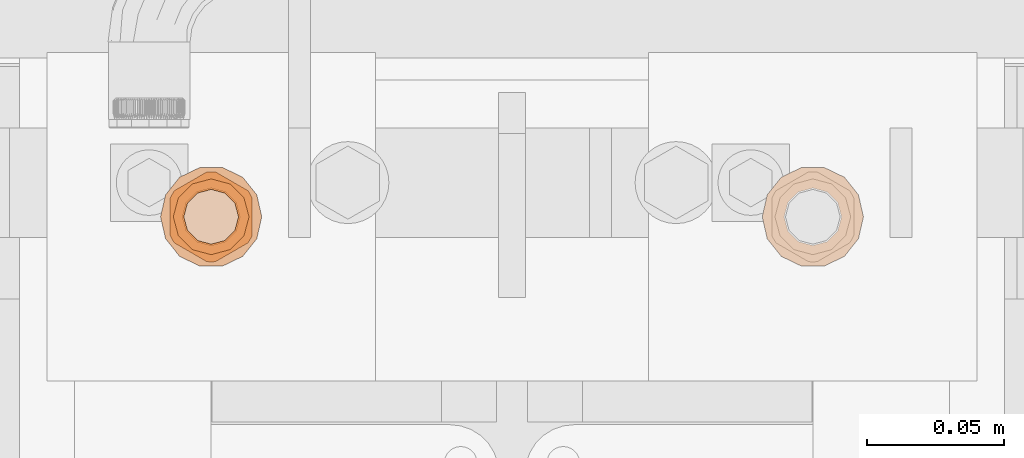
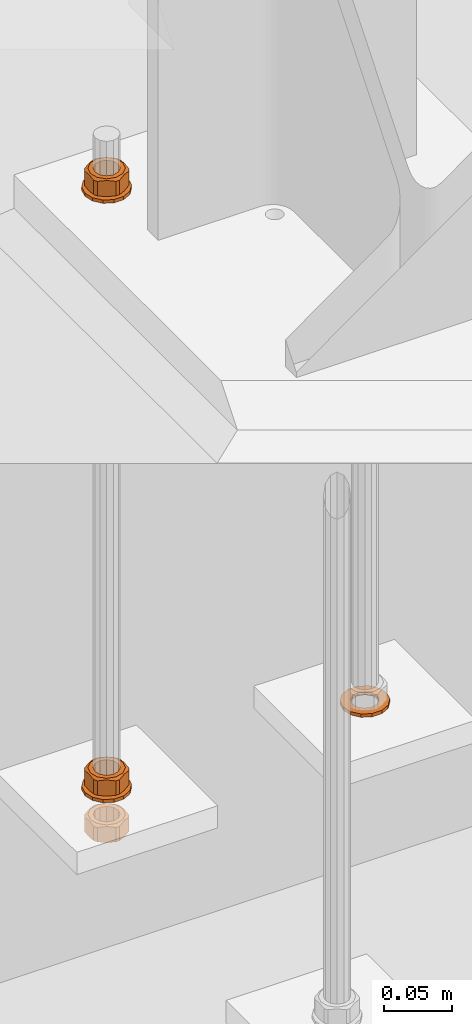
# One storey, part 135 of 145: 6 proxies.
"""IFC2X3 building model written with IfcOpenShell, lengths in millimetres."""

from ifc_helpers import new_model, entity, si_unit, converted_unit, origin_with_axes, place, context, project, spatial, faceted_brep, material, element, save


model = new_model("IFC2X3")

# Units and contexts
model_context = context("Model", 3, precision=1e-09, world=origin_with_axes())
ifc_project = project(units=[si_unit("LENGTHUNIT", "METRE", prefix="MILLI"), si_unit("AREAUNIT", "SQUARE_METRE"), si_unit("VOLUMEUNIT", "CUBIC_METRE"), converted_unit("PLANEANGLEUNIT", "DEGREE", entity("IfcPlaneAngleMeasure", 0.01745329), si_unit("PLANEANGLEUNIT", "RADIAN"), dimensions=[0, 0, 0, 0, 0, 0, 0])], contexts=[model_context])

# Site, building, storey
site_placement = place(None, origin_with_axes())
site = spatial("IfcSite", under=ifc_project, at=site_placement, Name="BZ1 Grund- und Mittelschule 85716 Unterschlei?heim", CompositionType="ELEMENT")
building_placement = place(site_placement, origin_with_axes())
building = spatial("IfcBuilding", under=site, at=building_placement, Name="Struktur 1", CompositionType="ELEMENT")
storey_placement = place(building_placement, origin_with_axes())
storey = spatial("IfcBuildingStorey", under=building, at=storey_placement, Name="Default Storey", CompositionType="ELEMENT", Elevation=0.0)

# Proxies
ifc_material = material(Name="A2")
proxy_1_placement = place(None, origin_with_axes())
element("IfcBuildingElementProxy", 1, at=proxy_1_placement, inside=storey, material=ifc_material, ObjectType="-", context=model_context, shape_type="Brep", body=[
    faceted_brep([(16972.379288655, -1510.538117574, -1247.0), (16964.961364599, -1506.965833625, -1247.0), (16956.728090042, -1506.965833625, -1247.0), (16949.310165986, -1510.538117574, -1247.0), (16944.176803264, -1516.975150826, -1247.0), (16942.344727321, -1525.002, -1247.0), (16944.176803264, -1533.028849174, -1247.0), (16949.310165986, -1539.465882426, -1247.0), (16956.728090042, -1543.038166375, -1247.0), (16964.961364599, -1543.038166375, -1247.0), (16972.379288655, -1539.465882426, -1247.0), (16977.512651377, -1533.028849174, -1247.0), (16979.344727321, -1525.002, -1247.0), (16977.512651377, -1516.975150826, -1247.0), (16960.844727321, -1514.502, -1247.0), (16966.094727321, -1515.90873326, -1247.0), (16969.93799406, -1519.752, -1247.0), (16971.344727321, -1525.002, -1247.0), (16969.93799406, -1530.252, -1247.0), (16966.094727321, -1534.09526674, -1247.0), (16960.844727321, -1535.502, -1247.0), (16955.594727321, -1534.09526674, -1247.0), (16951.751460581, -1530.252, -1247.0), (16950.344727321, -1525.002, -1247.0), (16951.751460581, -1519.752, -1247.0), (16955.594727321, -1515.90873326, -1247.0), (16949.310165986, -1510.538117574, -1250.0), (16956.728090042, -1506.965833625, -1250.0), (16964.961364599, -1506.965833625, -1250.0), (16972.379288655, -1510.538117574, -1250.0), (16977.512651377, -1516.975150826, -1250.0), (16979.344727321, -1525.002, -1250.0), (16977.512651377, -1533.028849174, -1250.0), (16972.379288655, -1539.465882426, -1250.0), (16964.961364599, -1543.038166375, -1250.0), (16956.728090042, -1543.038166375, -1250.0), (16949.310165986, -1539.465882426, -1250.0), (16944.176803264, -1533.028849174, -1250.0), (16942.344727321, -1525.002, -1250.0), (16944.176803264, -1516.975150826, -1250.0), (16960.844727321, -1514.502, -1250.0), (16955.594727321, -1515.90873326, -1250.0), (16951.751460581, -1519.752, -1250.0), (16950.344727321, -1525.002, -1250.0), (16951.751460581, -1530.252, -1250.0), (16955.594727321, -1534.09526674, -1250.0), (16960.844727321, -1535.502, -1250.0), (16966.094727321, -1534.09526674, -1250.0), (16969.93799406, -1530.252, -1250.0), (16971.344727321, -1525.002, -1250.0), (16969.93799406, -1519.752, -1250.0), (16966.094727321, -1515.90873326, -1250.0)], [[[0, 1, 2, 3, 4, 5, 6, 7, 8, 9, 10, 11, 12, 13], [14, 15, 16, 17, 18, 19, 20, 21, 22, 23, 24, 25]], [[26, 3, 2, 27]], [[26, 27, 28, 29, 30, 31, 32, 33, 34, 35, 36, 37, 38, 39], [40, 41, 42, 43, 44, 45, 46, 47, 48, 49, 50, 51]], [[3, 26, 39, 4]], [[41, 25, 24, 42]], [[4, 39, 38, 5]], [[25, 41, 40, 14]], [[27, 2, 1, 28]], [[42, 24, 23, 43]], [[5, 38, 37, 6]], [[14, 40, 51, 15]], [[28, 1, 0, 29]], [[43, 23, 22, 44]], [[6, 37, 36, 7]], [[15, 51, 50, 16]], [[29, 0, 13, 30]], [[44, 22, 21, 45]], [[7, 36, 35, 8]], [[16, 50, 49, 17]], [[12, 31, 30, 13]], [[45, 21, 20, 46]], [[8, 35, 34, 9]], [[31, 12, 11, 32]], [[17, 49, 48, 18]], [[10, 33, 32, 11]], [[9, 34, 33, 10]], [[46, 20, 19, 47]], [[18, 48, 47, 19]]]),
])
proxy_2_placement = place(None, origin_with_axes())
element("IfcBuildingElementProxy", 2, at=proxy_2_placement, inside=storey, material=ifc_material, ObjectType="-", context=model_context, shape_type="Brep", body=[
    faceted_brep([(16972.379288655, -1510.538117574, -707.0), (16964.961364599, -1506.965833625, -707.0), (16956.728090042, -1506.965833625, -707.0), (16949.310165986, -1510.538117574, -707.0), (16944.176803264, -1516.975150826, -707.0), (16942.344727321, -1525.002, -707.0), (16944.176803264, -1533.028849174, -707.0), (16949.310165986, -1539.465882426, -707.0), (16956.728090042, -1543.038166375, -707.0), (16964.961364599, -1543.038166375, -707.0), (16972.379288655, -1539.465882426, -707.0), (16977.512651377, -1533.028849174, -707.0), (16979.344727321, -1525.002, -707.0), (16977.512651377, -1516.975150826, -707.0), (16960.844727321, -1514.502, -707.0), (16966.094727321, -1515.90873326, -707.0), (16969.93799406, -1519.752, -707.0), (16971.344727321, -1525.002, -707.0), (16969.93799406, -1530.252, -707.0), (16966.094727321, -1534.09526674, -707.0), (16960.844727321, -1535.502, -707.0), (16955.594727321, -1534.09526674, -707.0), (16951.751460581, -1530.252, -707.0), (16950.344727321, -1525.002, -707.0), (16951.751460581, -1519.752, -707.0), (16955.594727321, -1515.90873326, -707.0), (16949.310165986, -1510.538117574, -710.0), (16956.728090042, -1506.965833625, -710.0), (16964.961364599, -1506.965833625, -710.0), (16972.379288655, -1510.538117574, -710.0), (16977.512651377, -1516.975150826, -710.0), (16979.344727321, -1525.002, -710.0), (16977.512651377, -1533.028849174, -710.0), (16972.379288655, -1539.465882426, -710.0), (16964.961364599, -1543.038166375, -710.0), (16956.728090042, -1543.038166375, -710.0), (16949.310165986, -1539.465882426, -710.0), (16944.176803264, -1533.028849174, -710.0), (16942.344727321, -1525.002, -710.0), (16944.176803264, -1516.975150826, -710.0), (16960.844727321, -1514.502, -710.0), (16955.594727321, -1515.90873326, -710.0), (16951.751460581, -1519.752, -710.0), (16950.344727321, -1525.002, -710.0), (16951.751460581, -1530.252, -710.0), (16955.594727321, -1534.09526674, -710.0), (16960.844727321, -1535.502, -710.0), (16966.094727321, -1534.09526674, -710.0), (16969.93799406, -1530.252, -710.0), (16971.344727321, -1525.002, -710.0), (16969.93799406, -1519.752, -710.0), (16966.094727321, -1515.90873326, -710.0)], [[[0, 1, 2, 3, 4, 5, 6, 7, 8, 9, 10, 11, 12, 13], [14, 15, 16, 17, 18, 19, 20, 21, 22, 23, 24, 25]], [[26, 3, 2, 27]], [[26, 27, 28, 29, 30, 31, 32, 33, 34, 35, 36, 37, 38, 39], [40, 41, 42, 43, 44, 45, 46, 47, 48, 49, 50, 51]], [[3, 26, 39, 4]], [[41, 25, 24, 42]], [[4, 39, 38, 5]], [[25, 41, 40, 14]], [[27, 2, 1, 28]], [[42, 24, 23, 43]], [[5, 38, 37, 6]], [[14, 40, 51, 15]], [[28, 1, 0, 29]], [[43, 23, 22, 44]], [[6, 37, 36, 7]], [[15, 51, 50, 16]], [[29, 0, 13, 30]], [[44, 22, 21, 45]], [[7, 36, 35, 8]], [[16, 50, 49, 17]], [[12, 31, 30, 13]], [[45, 21, 20, 46]], [[8, 35, 34, 9]], [[31, 12, 11, 32]], [[17, 49, 48, 18]], [[10, 33, 32, 11]], [[9, 34, 33, 10]], [[46, 20, 19, 47]], [[18, 48, 47, 19]]]),
])
proxy_3_placement = place(None, origin_with_axes())
element("IfcBuildingElementProxy", 3, at=proxy_3_placement, inside=storey, material=ifc_material, ObjectType="-", context=model_context, shape_type="Brep", body=[
    faceted_brep([(16975.371914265, -1532.772872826, -705.484455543), (16974.838094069, -1533.697476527, -705.484455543), (16972.839179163, -1531.927, -707.0), (16975.371914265, -1532.772872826, -692.515544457), (16974.838094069, -1533.697476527, -692.515544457), (16974.245508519, -1534.585563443, -705.484455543), (16974.245508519, -1534.585563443, -692.515544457), (16975.844727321, -1531.815635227, -705.484455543), (16975.844727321, -1531.815635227, -692.515544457), (16972.839179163, -1531.927, -691.0), (16975.844727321, -1525.002, -706.33604719), (16974.694727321, -1525.002, -707.0), (16968.344727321, -1537.992381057, -706.33604719), (16968.344727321, -1537.992381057, -691.66395281), (16962.443946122, -1541.39919867, -692.515544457), (16962.443946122, -1541.39919867, -705.484455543), (16961.378547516, -1541.468349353, -705.484455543), (16961.378547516, -1541.468349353, -692.515544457), (16960.310907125, -1541.468349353, -692.515544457), (16960.310907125, -1541.468349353, -705.484455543), (16975.844727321, -1518.188364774, -705.484455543), (16975.844727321, -1518.188364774, -692.515544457), (16975.844727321, -1525.002, -691.66395281), (16967.769727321, -1513.007548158, -707.0), (16972.839179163, -1518.077, -707.0), (16967.769727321, -1536.996451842, -707.0), (16960.844727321, -1538.852, -707.0), (16953.919727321, -1536.996451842, -707.0), (16948.850275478, -1531.927, -707.0), (16946.994727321, -1525.002, -707.0), (16948.850275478, -1518.077, -707.0), (16953.919727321, -1513.007548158, -707.0), (16960.844727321, -1511.152, -707.0), (16970.844727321, -1525.002, -707.0), (16969.504981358, -1520.002, -707.0), (16965.844727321, -1516.341745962, -707.0), (16960.844727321, -1515.002, -707.0), (16955.844727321, -1516.341745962, -707.0), (16952.184473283, -1520.002, -707.0), (16950.844727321, -1525.002, -707.0), (16952.184473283, -1530.002, -707.0), (16955.844727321, -1533.662254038, -707.0), (16960.844727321, -1535.002, -707.0), (16965.844727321, -1533.662254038, -707.0), (16969.504981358, -1530.002, -707.0), (16969.504981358, -1530.002, -691.0), (16965.844727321, -1533.662254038, -691.0), (16967.769727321, -1536.996451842, -691.0), (16960.844727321, -1538.852, -691.0), (16975.371914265, -1517.231127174, -705.484455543), (16975.371914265, -1517.231127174, -692.515544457), (16974.694727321, -1525.002, -691.0), (16972.839179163, -1518.077, -691.0), (16967.769727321, -1513.007548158, -691.0), (16960.844727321, -1511.152, -691.0), (16953.919727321, -1513.007548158, -691.0), (16948.850275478, -1518.077, -691.0), (16946.994727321, -1525.002, -691.0), (16948.850275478, -1531.927, -691.0), (16953.919727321, -1536.996451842, -691.0), (16970.844727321, -1525.002, -691.0), (16960.844727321, -1535.002, -691.0), (16955.844727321, -1533.662254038, -691.0), (16952.184473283, -1530.002, -691.0), (16950.844727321, -1525.002, -691.0), (16952.184473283, -1520.002, -691.0), (16955.844727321, -1516.341745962, -691.0), (16960.844727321, -1515.002, -691.0), (16965.844727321, -1516.341745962, -691.0), (16969.504981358, -1520.002, -691.0), (16959.245508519, -1541.39919867, -705.484455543), (16959.245508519, -1541.39919867, -692.515544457), (16974.838094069, -1516.306523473, -705.484455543), (16974.838094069, -1516.306523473, -692.515544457), (16953.344727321, -1537.992381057, -706.33604719), (16953.344727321, -1537.992381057, -691.66395281), (16947.443946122, -1534.585563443, -692.515544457), (16947.443946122, -1534.585563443, -705.484455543), (16974.245508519, -1515.418436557, -705.484455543), (16974.245508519, -1515.418436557, -692.515544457), (16968.344727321, -1512.011618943, -706.33604719), (16962.443946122, -1508.60480133, -705.484455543), (16962.443946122, -1508.60480133, -692.515544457), (16968.344727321, -1512.011618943, -691.66395281), (16946.851360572, -1533.697476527, -692.515544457), (16946.851360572, -1533.697476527, -705.484455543), (16946.317540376, -1532.772872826, -692.515544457), (16946.317540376, -1532.772872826, -705.484455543), (16961.378547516, -1508.535650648, -705.484455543), (16961.378547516, -1508.535650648, -692.515544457), (16960.310907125, -1508.535650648, -705.484455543), (16960.310907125, -1508.535650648, -692.515544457), (16945.844727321, -1531.815635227, -692.515544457), (16945.844727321, -1531.815635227, -705.484455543), (16959.245508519, -1508.60480133, -705.484455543), (16959.245508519, -1508.60480133, -692.515544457), (16945.844727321, -1525.002, -706.33604719), (16953.344727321, -1512.011618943, -706.33604719), (16947.443946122, -1515.418436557, -705.484455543), (16947.443946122, -1515.418436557, -692.515544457), (16953.344727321, -1512.011618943, -691.66395281), (16945.844727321, -1525.002, -691.66395281), (16945.844727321, -1518.188364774, -692.515544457), (16945.844727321, -1518.188364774, -705.484455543), (16946.317540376, -1517.231127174, -705.484455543), (16946.317540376, -1517.231127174, -692.515544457), (16946.851360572, -1516.306523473, -705.484455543), (16946.851360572, -1516.306523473, -692.515544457)], [[[0, 1, 2]], [[0, 3, 4, 1]], [[5, 2, 1]], [[1, 4, 6, 5]], [[7, 0, 2]], [[3, 0, 7, 8]], [[9, 4, 3]], [[10, 7, 11]], [[7, 2, 11]], [[5, 12, 2]], [[6, 13, 14, 15, 12, 5]], [[9, 6, 4]], [[16, 17, 18, 19]], [[17, 16, 15, 14]], [[10, 20, 21, 22, 8, 7]], [[9, 3, 8]], [[20, 10, 11]], [[23, 24, 11, 2, 25, 26, 27, 28, 29, 30, 31, 32], [33, 34, 35, 36, 37, 38, 39, 40, 41, 42, 43, 44]], [[16, 19, 26]], [[12, 25, 2]], [[45, 44, 43, 46]], [[9, 47, 6]], [[48, 17, 14]], [[49, 50, 21, 20]], [[51, 9, 8]], [[9, 51, 52, 53, 54, 55, 56, 57, 58, 59, 48, 47], [60, 45, 46, 61, 62, 63, 64, 65, 66, 67, 68, 69]], [[44, 45, 60, 33]], [[20, 24, 49]], [[20, 11, 24]], [[70, 26, 19]], [[12, 15, 25]], [[15, 16, 26]], [[48, 14, 13]], [[47, 13, 6]], [[19, 18, 71, 70]], [[48, 18, 17]], [[72, 73, 50, 49]], [[51, 8, 22]], [[72, 49, 24]], [[70, 74, 26]], [[15, 26, 25]], [[46, 43, 42, 61]], [[47, 48, 13]], [[48, 71, 18]], [[71, 75, 76, 77, 74, 70]], [[33, 60, 69, 34]], [[78, 79, 73, 72]], [[52, 50, 73]], [[51, 22, 21]], [[52, 21, 50]], [[78, 72, 24]], [[74, 27, 26]], [[48, 59, 71]], [[80, 81, 82, 83, 79, 78]], [[52, 73, 79]], [[52, 51, 21]], [[78, 24, 23]], [[74, 77, 27]], [[61, 42, 41, 62]], [[59, 75, 71]], [[77, 76, 84, 85]], [[34, 69, 68, 35]], [[52, 79, 83]], [[80, 78, 23]], [[81, 80, 32]], [[77, 28, 27]], [[59, 58, 75]], [[58, 76, 75]], [[77, 85, 28]], [[85, 84, 86, 87]], [[88, 89, 82, 81]], [[53, 52, 83]], [[80, 23, 32]], [[81, 32, 88]], [[62, 41, 40, 63]], [[58, 84, 76]], [[85, 87, 28]], [[35, 68, 67, 36]], [[90, 91, 89, 88]], [[53, 83, 82]], [[54, 82, 89]], [[90, 88, 32]], [[86, 84, 58]], [[87, 86, 92, 93]], [[93, 28, 87]], [[39, 64, 63, 40]], [[91, 90, 94, 95]], [[54, 89, 91]], [[54, 53, 82]], [[94, 90, 32]], [[92, 86, 58]], [[93, 96, 28]], [[64, 39, 38, 65]], [[37, 66, 65, 38]], [[36, 67, 66, 37]], [[54, 91, 95]], [[94, 32, 31]], [[97, 98, 99, 100, 95, 94]], [[96, 29, 28]], [[92, 58, 57]], [[92, 101, 102, 103, 96, 93]], [[54, 95, 100]], [[97, 94, 31]], [[96, 103, 29]], [[101, 92, 57]], [[55, 54, 100]], [[97, 31, 30]], [[103, 30, 29]], [[101, 57, 56]], [[55, 100, 99]], [[98, 97, 30]], [[103, 104, 30]], [[103, 102, 105, 104]], [[102, 101, 56]], [[99, 56, 55]], [[98, 30, 106]], [[99, 98, 106, 107]], [[104, 106, 30]], [[102, 56, 105]], [[99, 107, 56]], [[104, 105, 107, 106]], [[107, 105, 56]]]),
])
proxy_4_placement = place(None, origin_with_axes())
element("IfcBuildingElementProxy", 4, at=proxy_4_placement, inside=storey, material=ifc_material, ObjectType="-", context=model_context, shape_type="Brep", body=[
    faceted_brep([(17192.379288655, -1510.538117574, -1247.0), (17184.961364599, -1506.965833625, -1247.0), (17176.728090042, -1506.965833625, -1247.0), (17169.310165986, -1510.538117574, -1247.0), (17164.176803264, -1516.975150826, -1247.0), (17162.344727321, -1525.002, -1247.0), (17164.176803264, -1533.028849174, -1247.0), (17169.310165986, -1539.465882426, -1247.0), (17176.728090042, -1543.038166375, -1247.0), (17184.961364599, -1543.038166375, -1247.0), (17192.379288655, -1539.465882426, -1247.0), (17197.512651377, -1533.028849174, -1247.0), (17199.344727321, -1525.002, -1247.0), (17197.512651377, -1516.975150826, -1247.0), (17180.844727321, -1514.502, -1247.0), (17186.094727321, -1515.90873326, -1247.0), (17189.93799406, -1519.752, -1247.0), (17191.344727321, -1525.002, -1247.0), (17189.93799406, -1530.252, -1247.0), (17186.094727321, -1534.09526674, -1247.0), (17180.844727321, -1535.502, -1247.0), (17175.594727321, -1534.09526674, -1247.0), (17171.751460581, -1530.252, -1247.0), (17170.344727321, -1525.002, -1247.0), (17171.751460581, -1519.752, -1247.0), (17175.594727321, -1515.90873326, -1247.0), (17169.310165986, -1510.538117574, -1250.0), (17176.728090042, -1506.965833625, -1250.0), (17184.961364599, -1506.965833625, -1250.0), (17192.379288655, -1510.538117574, -1250.0), (17197.512651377, -1516.975150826, -1250.0), (17199.344727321, -1525.002, -1250.0), (17197.512651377, -1533.028849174, -1250.0), (17192.379288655, -1539.465882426, -1250.0), (17184.961364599, -1543.038166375, -1250.0), (17176.728090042, -1543.038166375, -1250.0), (17169.310165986, -1539.465882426, -1250.0), (17164.176803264, -1533.028849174, -1250.0), (17162.344727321, -1525.002, -1250.0), (17164.176803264, -1516.975150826, -1250.0), (17180.844727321, -1514.502, -1250.0), (17175.594727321, -1515.90873326, -1250.0), (17171.751460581, -1519.752, -1250.0), (17170.344727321, -1525.002, -1250.0), (17171.751460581, -1530.252, -1250.0), (17175.594727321, -1534.09526674, -1250.0), (17180.844727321, -1535.502, -1250.0), (17186.094727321, -1534.09526674, -1250.0), (17189.93799406, -1530.252, -1250.0), (17191.344727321, -1525.002, -1250.0), (17189.93799406, -1519.752, -1250.0), (17186.094727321, -1515.90873326, -1250.0)], [[[0, 1, 2, 3, 4, 5, 6, 7, 8, 9, 10, 11, 12, 13], [14, 15, 16, 17, 18, 19, 20, 21, 22, 23, 24, 25]], [[26, 3, 2, 27]], [[26, 27, 28, 29, 30, 31, 32, 33, 34, 35, 36, 37, 38, 39], [40, 41, 42, 43, 44, 45, 46, 47, 48, 49, 50, 51]], [[3, 26, 39, 4]], [[41, 25, 24, 42]], [[4, 39, 38, 5]], [[25, 41, 40, 14]], [[27, 2, 1, 28]], [[42, 24, 23, 43]], [[5, 38, 37, 6]], [[14, 40, 51, 15]], [[28, 1, 0, 29]], [[43, 23, 22, 44]], [[6, 37, 36, 7]], [[15, 51, 50, 16]], [[29, 0, 13, 30]], [[44, 22, 21, 45]], [[7, 36, 35, 8]], [[16, 50, 49, 17]], [[12, 31, 30, 13]], [[45, 21, 20, 46]], [[8, 35, 34, 9]], [[31, 12, 11, 32]], [[17, 49, 48, 18]], [[10, 33, 32, 11]], [[9, 34, 33, 10]], [[46, 20, 19, 47]], [[18, 48, 47, 19]]]),
])
proxy_5_placement = place(None, origin_with_axes())
element("IfcBuildingElementProxy", 5, at=proxy_5_placement, inside=storey, material=ifc_material, ObjectType="-", context=model_context, shape_type="Brep", body=[
    faceted_brep([(16975.371914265, -1532.772872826, -1245.484455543), (16974.838094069, -1533.697476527, -1245.484455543), (16972.839179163, -1531.927, -1247.0), (16975.371914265, -1532.772872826, -1232.515544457), (16974.838094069, -1533.697476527, -1232.515544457), (16974.245508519, -1534.585563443, -1245.484455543), (16974.245508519, -1534.585563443, -1232.515544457), (16975.844727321, -1531.815635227, -1245.484455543), (16975.844727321, -1531.815635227, -1232.515544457), (16972.839179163, -1531.927, -1231.0), (16975.844727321, -1525.002, -1246.33604719), (16974.694727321, -1525.002, -1247.0), (16968.344727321, -1537.992381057, -1246.33604719), (16968.344727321, -1537.992381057, -1231.66395281), (16962.443946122, -1541.39919867, -1232.515544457), (16962.443946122, -1541.39919867, -1245.484455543), (16961.378547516, -1541.468349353, -1245.484455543), (16961.378547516, -1541.468349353, -1232.515544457), (16960.310907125, -1541.468349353, -1232.515544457), (16960.310907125, -1541.468349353, -1245.484455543), (16975.844727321, -1518.188364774, -1245.484455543), (16975.844727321, -1518.188364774, -1232.515544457), (16975.844727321, -1525.002, -1231.66395281), (16967.769727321, -1513.007548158, -1247.0), (16972.839179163, -1518.077, -1247.0), (16967.769727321, -1536.996451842, -1247.0), (16960.844727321, -1538.852, -1247.0), (16953.919727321, -1536.996451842, -1247.0), (16948.850275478, -1531.927, -1247.0), (16946.994727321, -1525.002, -1247.0), (16948.850275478, -1518.077, -1247.0), (16953.919727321, -1513.007548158, -1247.0), (16960.844727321, -1511.152, -1247.0), (16970.844727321, -1525.002, -1247.0), (16969.504981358, -1520.002, -1247.0), (16965.844727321, -1516.341745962, -1247.0), (16960.844727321, -1515.002, -1247.0), (16955.844727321, -1516.341745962, -1247.0), (16952.184473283, -1520.002, -1247.0), (16950.844727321, -1525.002, -1247.0), (16952.184473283, -1530.002, -1247.0), (16955.844727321, -1533.662254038, -1247.0), (16960.844727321, -1535.002, -1247.0), (16965.844727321, -1533.662254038, -1247.0), (16969.504981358, -1530.002, -1247.0), (16969.504981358, -1530.002, -1231.0), (16965.844727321, -1533.662254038, -1231.0), (16967.769727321, -1536.996451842, -1231.0), (16960.844727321, -1538.852, -1231.0), (16975.371914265, -1517.231127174, -1245.484455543), (16975.371914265, -1517.231127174, -1232.515544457), (16974.694727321, -1525.002, -1231.0), (16972.839179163, -1518.077, -1231.0), (16967.769727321, -1513.007548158, -1231.0), (16960.844727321, -1511.152, -1231.0), (16953.919727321, -1513.007548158, -1231.0), (16948.850275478, -1518.077, -1231.0), (16946.994727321, -1525.002, -1231.0), (16948.850275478, -1531.927, -1231.0), (16953.919727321, -1536.996451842, -1231.0), (16970.844727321, -1525.002, -1231.0), (16960.844727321, -1535.002, -1231.0), (16955.844727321, -1533.662254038, -1231.0), (16952.184473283, -1530.002, -1231.0), (16950.844727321, -1525.002, -1231.0), (16952.184473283, -1520.002, -1231.0), (16955.844727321, -1516.341745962, -1231.0), (16960.844727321, -1515.002, -1231.0), (16965.844727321, -1516.341745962, -1231.0), (16969.504981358, -1520.002, -1231.0), (16959.245508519, -1541.39919867, -1245.484455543), (16959.245508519, -1541.39919867, -1232.515544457), (16974.838094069, -1516.306523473, -1245.484455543), (16974.838094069, -1516.306523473, -1232.515544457), (16953.344727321, -1537.992381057, -1246.33604719), (16953.344727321, -1537.992381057, -1231.66395281), (16947.443946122, -1534.585563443, -1232.515544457), (16947.443946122, -1534.585563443, -1245.484455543), (16974.245508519, -1515.418436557, -1245.484455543), (16974.245508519, -1515.418436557, -1232.515544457), (16968.344727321, -1512.011618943, -1246.33604719), (16962.443946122, -1508.60480133, -1245.484455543), (16962.443946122, -1508.60480133, -1232.515544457), (16968.344727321, -1512.011618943, -1231.66395281), (16946.851360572, -1533.697476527, -1232.515544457), (16946.851360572, -1533.697476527, -1245.484455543), (16946.317540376, -1532.772872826, -1232.515544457), (16946.317540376, -1532.772872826, -1245.484455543), (16961.378547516, -1508.535650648, -1245.484455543), (16961.378547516, -1508.535650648, -1232.515544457), (16960.310907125, -1508.535650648, -1245.484455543), (16960.310907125, -1508.535650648, -1232.515544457), (16945.844727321, -1531.815635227, -1232.515544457), (16945.844727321, -1531.815635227, -1245.484455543), (16959.245508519, -1508.60480133, -1245.484455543), (16959.245508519, -1508.60480133, -1232.515544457), (16945.844727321, -1525.002, -1246.33604719), (16953.344727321, -1512.011618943, -1246.33604719), (16947.443946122, -1515.418436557, -1245.484455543), (16947.443946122, -1515.418436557, -1232.515544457), (16953.344727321, -1512.011618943, -1231.66395281), (16945.844727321, -1525.002, -1231.66395281), (16945.844727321, -1518.188364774, -1232.515544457), (16945.844727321, -1518.188364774, -1245.484455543), (16946.317540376, -1517.231127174, -1245.484455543), (16946.317540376, -1517.231127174, -1232.515544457), (16946.851360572, -1516.306523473, -1245.484455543), (16946.851360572, -1516.306523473, -1232.515544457)], [[[0, 1, 2]], [[0, 3, 4, 1]], [[5, 2, 1]], [[1, 4, 6, 5]], [[7, 0, 2]], [[3, 0, 7, 8]], [[9, 4, 3]], [[10, 7, 11]], [[7, 2, 11]], [[5, 12, 2]], [[6, 13, 14, 15, 12, 5]], [[9, 6, 4]], [[16, 17, 18, 19]], [[17, 16, 15, 14]], [[10, 20, 21, 22, 8, 7]], [[9, 3, 8]], [[20, 10, 11]], [[23, 24, 11, 2, 25, 26, 27, 28, 29, 30, 31, 32], [33, 34, 35, 36, 37, 38, 39, 40, 41, 42, 43, 44]], [[16, 19, 26]], [[12, 25, 2]], [[45, 44, 43, 46]], [[9, 47, 6]], [[48, 17, 14]], [[49, 50, 21, 20]], [[51, 9, 8]], [[9, 51, 52, 53, 54, 55, 56, 57, 58, 59, 48, 47], [60, 45, 46, 61, 62, 63, 64, 65, 66, 67, 68, 69]], [[44, 45, 60, 33]], [[20, 24, 49]], [[20, 11, 24]], [[70, 26, 19]], [[12, 15, 25]], [[15, 16, 26]], [[48, 14, 13]], [[47, 13, 6]], [[19, 18, 71, 70]], [[48, 18, 17]], [[72, 73, 50, 49]], [[51, 8, 22]], [[72, 49, 24]], [[70, 74, 26]], [[15, 26, 25]], [[46, 43, 42, 61]], [[47, 48, 13]], [[48, 71, 18]], [[71, 75, 76, 77, 74, 70]], [[33, 60, 69, 34]], [[78, 79, 73, 72]], [[52, 50, 73]], [[51, 22, 21]], [[52, 21, 50]], [[78, 72, 24]], [[74, 27, 26]], [[48, 59, 71]], [[80, 81, 82, 83, 79, 78]], [[52, 73, 79]], [[52, 51, 21]], [[78, 24, 23]], [[74, 77, 27]], [[61, 42, 41, 62]], [[59, 75, 71]], [[77, 76, 84, 85]], [[34, 69, 68, 35]], [[52, 79, 83]], [[80, 78, 23]], [[81, 80, 32]], [[77, 28, 27]], [[59, 58, 75]], [[58, 76, 75]], [[77, 85, 28]], [[85, 84, 86, 87]], [[88, 89, 82, 81]], [[53, 52, 83]], [[80, 23, 32]], [[81, 32, 88]], [[62, 41, 40, 63]], [[58, 84, 76]], [[85, 87, 28]], [[35, 68, 67, 36]], [[90, 91, 89, 88]], [[53, 83, 82]], [[54, 82, 89]], [[90, 88, 32]], [[86, 84, 58]], [[87, 86, 92, 93]], [[93, 28, 87]], [[39, 64, 63, 40]], [[91, 90, 94, 95]], [[54, 89, 91]], [[54, 53, 82]], [[94, 90, 32]], [[92, 86, 58]], [[93, 96, 28]], [[64, 39, 38, 65]], [[37, 66, 65, 38]], [[36, 67, 66, 37]], [[54, 91, 95]], [[94, 32, 31]], [[97, 98, 99, 100, 95, 94]], [[96, 29, 28]], [[92, 58, 57]], [[92, 101, 102, 103, 96, 93]], [[54, 95, 100]], [[97, 94, 31]], [[96, 103, 29]], [[101, 92, 57]], [[55, 54, 100]], [[97, 31, 30]], [[103, 30, 29]], [[101, 57, 56]], [[55, 100, 99]], [[98, 97, 30]], [[103, 104, 30]], [[103, 102, 105, 104]], [[102, 101, 56]], [[99, 56, 55]], [[98, 30, 106]], [[99, 98, 106, 107]], [[104, 106, 30]], [[102, 56, 105]], [[99, 107, 56]], [[104, 105, 107, 106]], [[107, 105, 56]]]),
])
proxy_6_placement = place(None, origin_with_axes())
element("IfcBuildingElementProxy", 6, at=proxy_6_placement, inside=storey, material=ifc_material, ObjectType="-", context=model_context, shape_type="Brep", body=[
    faceted_brep([(16974.838094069, -1533.697476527, -1274.515544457), (16975.371914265, -1532.772872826, -1274.515544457), (16972.839179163, -1531.927, -1273.0), (16975.371914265, -1532.772872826, -1287.484455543), (16974.838094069, -1533.697476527, -1287.484455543), (16974.245508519, -1534.585563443, -1274.515544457), (16974.245508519, -1534.585563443, -1287.484455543), (16975.844727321, -1531.815635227, -1274.515544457), (16975.844727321, -1531.815635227, -1287.484455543), (16972.839179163, -1531.927, -1289.0), (16975.844727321, -1525.002, -1273.66395281), (16974.694727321, -1525.002, -1273.0), (16968.344727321, -1537.992381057, -1273.66395281), (16968.344727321, -1537.992381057, -1288.33604719), (16962.443946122, -1541.39919867, -1274.515544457), (16962.443946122, -1541.39919867, -1287.484455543), (16961.378547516, -1541.468349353, -1287.484455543), (16961.378547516, -1541.468349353, -1274.515544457), (16960.310907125, -1541.468349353, -1274.515544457), (16960.310907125, -1541.468349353, -1287.484455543), (16975.844727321, -1518.188364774, -1274.515544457), (16975.844727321, -1525.002, -1288.33604719), (16975.844727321, -1518.188364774, -1287.484455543), (16972.839179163, -1518.077, -1273.0), (16967.769727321, -1513.007548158, -1273.0), (16960.844727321, -1511.152, -1273.0), (16953.919727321, -1513.007548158, -1273.0), (16948.850275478, -1518.077, -1273.0), (16946.994727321, -1525.002, -1273.0), (16948.850275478, -1531.927, -1273.0), (16953.919727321, -1536.996451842, -1273.0), (16960.844727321, -1538.852, -1273.0), (16967.769727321, -1536.996451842, -1273.0), (16970.844727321, -1525.002, -1273.0), (16969.504981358, -1530.002, -1273.0), (16965.844727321, -1533.662254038, -1273.0), (16960.844727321, -1535.002, -1273.0), (16955.844727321, -1533.662254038, -1273.0), (16952.184473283, -1530.002, -1273.0), (16950.844727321, -1525.002, -1273.0), (16952.184473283, -1520.002, -1273.0), (16955.844727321, -1516.341745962, -1273.0), (16960.844727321, -1515.002, -1273.0), (16965.844727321, -1516.341745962, -1273.0), (16969.504981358, -1520.002, -1273.0), (16969.504981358, -1530.002, -1289.0), (16965.844727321, -1533.662254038, -1289.0), (16967.769727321, -1536.996451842, -1289.0), (16960.844727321, -1538.852, -1289.0), (16975.371914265, -1517.231127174, -1287.484455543), (16975.371914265, -1517.231127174, -1274.515544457), (16974.694727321, -1525.002, -1289.0), (16970.844727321, -1525.002, -1289.0), (16969.504981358, -1520.002, -1289.0), (16965.844727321, -1516.341745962, -1289.0), (16960.844727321, -1515.002, -1289.0), (16955.844727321, -1516.341745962, -1289.0), (16952.184473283, -1520.002, -1289.0), (16950.844727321, -1525.002, -1289.0), (16952.184473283, -1530.002, -1289.0), (16955.844727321, -1533.662254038, -1289.0), (16960.844727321, -1535.002, -1289.0), (16959.245508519, -1541.39919867, -1274.515544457), (16959.245508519, -1541.39919867, -1287.484455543), (16974.838094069, -1516.306523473, -1287.484455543), (16974.838094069, -1516.306523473, -1274.515544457), (16953.344727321, -1537.992381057, -1273.66395281), (16953.344727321, -1537.992381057, -1288.33604719), (16947.443946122, -1534.585563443, -1274.515544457), (16947.443946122, -1534.585563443, -1287.484455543), (16974.245508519, -1515.418436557, -1287.484455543), (16974.245508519, -1515.418436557, -1274.515544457), (16972.839179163, -1518.077, -1289.0), (16953.919727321, -1536.996451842, -1289.0), (16962.443946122, -1508.60480133, -1274.515544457), (16968.344727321, -1512.011618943, -1273.66395281), (16968.344727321, -1512.011618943, -1288.33604719), (16962.443946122, -1508.60480133, -1287.484455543), (16946.851360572, -1533.697476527, -1274.515544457), (16946.851360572, -1533.697476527, -1287.484455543), (16948.850275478, -1531.927, -1289.0), (16946.317540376, -1532.772872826, -1274.515544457), (16946.317540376, -1532.772872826, -1287.484455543), (16961.378547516, -1508.535650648, -1287.484455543), (16961.378547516, -1508.535650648, -1274.515544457), (16967.769727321, -1513.007548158, -1289.0), (16960.310907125, -1508.535650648, -1287.484455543), (16960.310907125, -1508.535650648, -1274.515544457), (16960.844727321, -1511.152, -1289.0), (16945.844727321, -1531.815635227, -1274.515544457), (16945.844727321, -1531.815635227, -1287.484455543), (16959.245508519, -1508.60480133, -1287.484455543), (16959.245508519, -1508.60480133, -1274.515544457), (16945.844727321, -1525.002, -1273.66395281), (16947.443946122, -1515.418436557, -1274.515544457), (16953.344727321, -1512.011618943, -1273.66395281), (16953.344727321, -1512.011618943, -1288.33604719), (16947.443946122, -1515.418436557, -1287.484455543), (16946.994727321, -1525.002, -1289.0), (16945.844727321, -1525.002, -1288.33604719), (16945.844727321, -1518.188364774, -1274.515544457), (16945.844727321, -1518.188364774, -1287.484455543), (16953.919727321, -1513.007548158, -1289.0), (16948.850275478, -1518.077, -1289.0), (16946.317540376, -1517.231127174, -1274.515544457), (16946.317540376, -1517.231127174, -1287.484455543), (16946.851360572, -1516.306523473, -1274.515544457), (16946.851360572, -1516.306523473, -1287.484455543)], [[[0, 1, 2]], [[3, 1, 0, 4]], [[2, 5, 0]], [[4, 0, 5, 6]], [[1, 7, 2]], [[1, 3, 8, 7]], [[4, 9, 3]], [[7, 10, 11]], [[2, 7, 11]], [[12, 5, 2]], [[13, 6, 5, 12, 14, 15]], [[6, 9, 4]], [[16, 17, 18, 19]], [[17, 16, 15, 14]], [[20, 10, 7, 8, 21, 22]], [[3, 9, 8]], [[10, 20, 11]], [[23, 24, 25, 26, 27, 28, 29, 30, 31, 32, 2, 11], [33, 34, 35, 36, 37, 38, 39, 40, 41, 42, 43, 44]], [[18, 17, 31]], [[32, 12, 2]], [[34, 45, 46, 35]], [[47, 9, 6]], [[16, 48, 15]], [[49, 50, 20, 22]], [[9, 51, 8]], [[45, 52, 53, 54, 55, 56, 57, 58, 59, 60, 61, 46]], [[45, 34, 33, 52]], [[23, 20, 50]], [[11, 20, 23]], [[31, 62, 18]], [[14, 12, 32]], [[17, 14, 31]], [[15, 48, 13]], [[13, 47, 6]], [[19, 18, 62, 63]], [[19, 48, 16]], [[64, 65, 50, 49]], [[8, 51, 21]], [[50, 65, 23]], [[66, 62, 31]], [[31, 14, 32]], [[35, 46, 61, 36]], [[48, 47, 13]], [[63, 48, 19]], [[67, 63, 62, 66, 68, 69]], [[52, 33, 44, 53]], [[70, 71, 65, 64]], [[49, 72, 64]], [[21, 51, 22]], [[22, 72, 49]], [[65, 71, 23]], [[30, 66, 31]], [[73, 48, 63]], [[74, 75, 71, 70, 76, 77]], [[64, 72, 70]], [[51, 72, 22]], [[23, 71, 24]], [[68, 66, 30]], [[36, 61, 60, 37]], [[67, 73, 63]], [[69, 68, 78, 79]], [[53, 44, 43, 54]], [[70, 72, 76]], [[71, 75, 24]], [[75, 74, 25]], [[29, 68, 30]], [[80, 73, 67]], [[69, 80, 67]], [[78, 68, 29]], [[79, 78, 81, 82]], [[83, 84, 74, 77]], [[72, 85, 76]], [[24, 75, 25]], [[25, 74, 84]], [[37, 60, 59, 38]], [[79, 80, 69]], [[81, 78, 29]], [[54, 43, 42, 55]], [[86, 87, 84, 83]], [[76, 85, 77]], [[77, 88, 83]], [[84, 87, 25]], [[79, 82, 80]], [[82, 81, 89, 90]], [[29, 89, 81]], [[58, 39, 38, 59]], [[87, 86, 91, 92]], [[83, 88, 86]], [[85, 88, 77]], [[87, 92, 25]], [[82, 90, 80]], [[93, 89, 29]], [[39, 58, 57, 40]], [[56, 41, 40, 57]], [[55, 42, 41, 56]], [[86, 88, 91]], [[25, 92, 26]], [[94, 95, 92, 91, 96, 97]], [[28, 93, 29]], [[80, 90, 98]], [[99, 90, 89, 93, 100, 101]], [[91, 88, 96]], [[92, 95, 26]], [[100, 93, 28]], [[90, 99, 98]], [[88, 102, 96]], [[26, 95, 27]], [[27, 100, 28]], [[98, 99, 103]], [[96, 102, 97]], [[95, 94, 27]], [[104, 100, 27]], [[101, 100, 104, 105]], [[99, 101, 103]], [[103, 97, 102]], [[27, 94, 106]], [[94, 97, 107, 106]], [[106, 104, 27]], [[103, 101, 105]], [[107, 97, 103]], [[105, 104, 106, 107]], [[105, 107, 103]]]),
])

save(model, "model.ifc")
